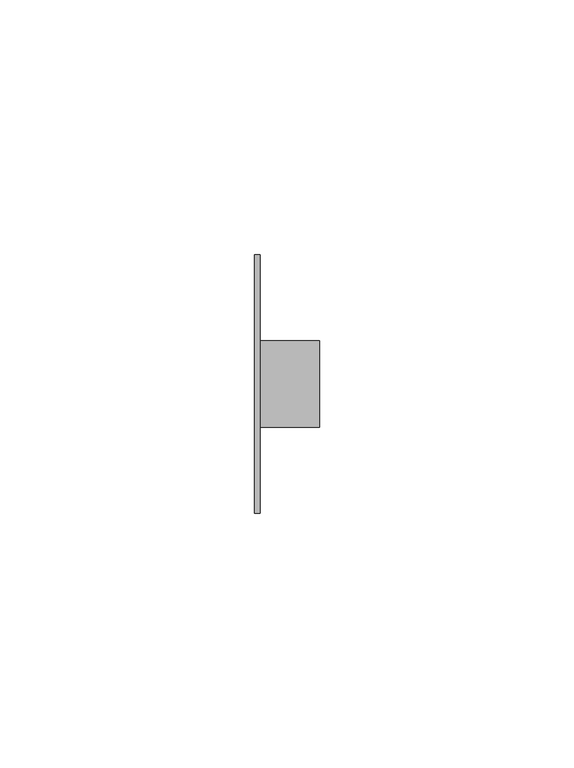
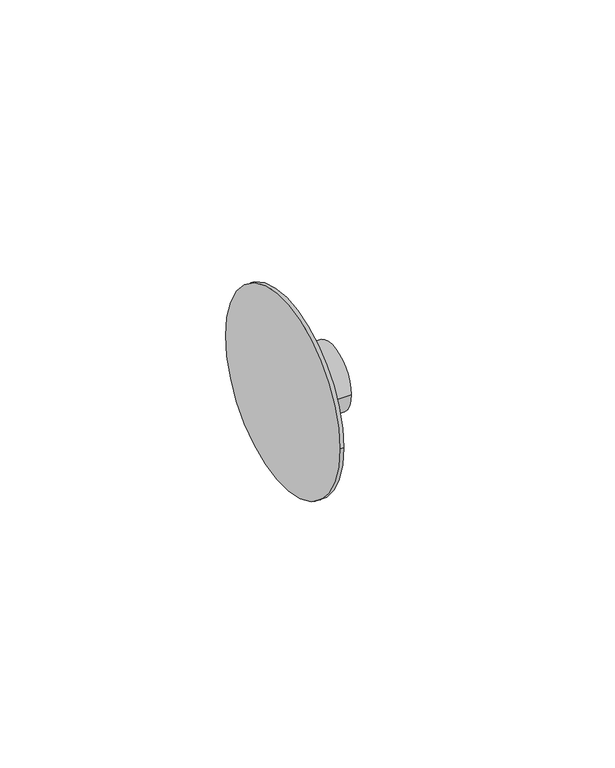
"""IFC4 building model written with IfcOpenShell, lengths in millimetres: pipe fitting geometry, Bucha de redução reta - Soldada - CU : Padrão."""

from ifc_helpers import new_model, si_unit, frame, origin, place, context, project, spatial, circle_curve, source, transform, mapped, element, save
from ifc_brep_helpers import plane_surface, cylinder_surface, advanced_brep


def pipe_fitting_ed76f89c(model_context):
    return source(origin(), model_context, "Body", "AdvancedBrep", [
        advanced_brep(
        [(0.0, -25.3, 0.0), (0.0, 25.3, 0.0), (1.0, -25.3, 0.0), (1.0, 25.3, 0.0), (1.0, -8.4937, 0.0), (1.0, 8.4937, 0.0), (12.6589, -8.4937, 0.0), (12.6589, 8.4937, 0.0)],
        [
            (0, 1, circle_curve(frame((0.0, 0.0, 0.0), z_axis=(-1.0, 0.0, 0.0), x_axis=(0.0, 1.0, 0.0)), 25.3)),
            (1, 0, circle_curve(frame((0.0, 0.0, 0.0), z_axis=(-1.0, 0.0, 0.0), x_axis=(0.0, 1.0, 0.0)), 25.3)),
            (2, 3, circle_curve(frame((1.0, 0.0, 0.0), z_axis=(1.0, 0.0, 0.0), x_axis=(0.0, 1.0, 0.0)), 25.3)),
            (3, 2, circle_curve(frame((1.0, 0.0, 0.0), z_axis=(1.0, 0.0, 0.0), x_axis=(0.0, 1.0, 0.0)), 25.3)),
            (4, 5, circle_curve(frame((1.0, 0.0, 0.0), z_axis=(-1.0, 0.0, 0.0), x_axis=(0.0, 1.0, 0.0)), 8.4937)),
            (5, 4, circle_curve(frame((1.0, 0.0, 0.0), z_axis=(-1.0, 0.0, 0.0), x_axis=(0.0, 1.0, 0.0)), 8.4937)),
            (0, 2),
            (3, 1),
            (6, 7, circle_curve(frame((12.6589, 0.0, 0.0), z_axis=(1.0, 0.0, 0.0), x_axis=(0.0, 1.0, 0.0)), 8.4937)),
            (7, 6, circle_curve(frame((12.6589, 0.0, 0.0), z_axis=(1.0, 0.0, 0.0), x_axis=(0.0, 1.0, 0.0)), 8.4937)),
            (7, 5),
            (4, 6),
        ],
        [
            plane_surface(frame((0.0, 0.0, 0.0), z_axis=(-1.0, 0.0, 0.0), x_axis=(0.0, 0.0, 1.0))),
            plane_surface(frame((1.0, 0.0, 0.0), z_axis=(1.0, 0.0, 0.0), x_axis=(0.0, 0.0, 1.0))),
            cylinder_surface(frame((0.0, 0.0, 0.0), z_axis=(-1.0, 0.0, 0.0), x_axis=(0.0, 1.0, 0.0)), 25.3),
            plane_surface(frame((12.6589, 0.0, 0.0), z_axis=(1.0, 0.0, 0.0), x_axis=(0.0, 0.0, 1.0))),
            cylinder_surface(frame((1.0, 0.0, 0.0), z_axis=(-1.0, 0.0, 0.0), x_axis=(0.0, 1.0, 0.0)), 8.4937),
        ],
        [
            (0, [[1, 2]]),
            (1, [[3, 4], [5, 6]]),
            (2, [[-1, 7, -4, 8]]),
            (2, [[-2, -8, -3, -7]]),
            (3, [[9, 10]]),
            (4, [[-10, 11, -5, 12]]),
            (4, [[-9, -12, -6, -11]]),
        ],
    ),
    ])


if __name__ == "__main__":
    model = new_model("IFC4")
    model_context = context("Model", 3, world=origin())
    ifc_project = project(units=[si_unit("LENGTHUNIT", "METRE", prefix="MILLI")], contexts=[model_context])
    site = spatial("IfcSite", under=ifc_project)
    building = spatial("IfcBuilding", under=site)
    placement = place(None, origin())
    pipe_fitting_shape = pipe_fitting_ed76f89c(model_context)
    element("IfcPipeFitting", 1, ObjectType="Bucha de redução reta - Soldada - CU : Padrão", at=placement, inside=building, context=model_context, shape_type="MappedRepresentation", body=[
        mapped(pipe_fitting_shape, transform((0.0, 0.0, 0.0), x_axis=(1.0, 0.0, 0.0), y_axis=(0.0, 1.0, 0.0), z_axis=(0.0, 0.0, 1.0))),
    ])
    save(model, "model.ifc")
